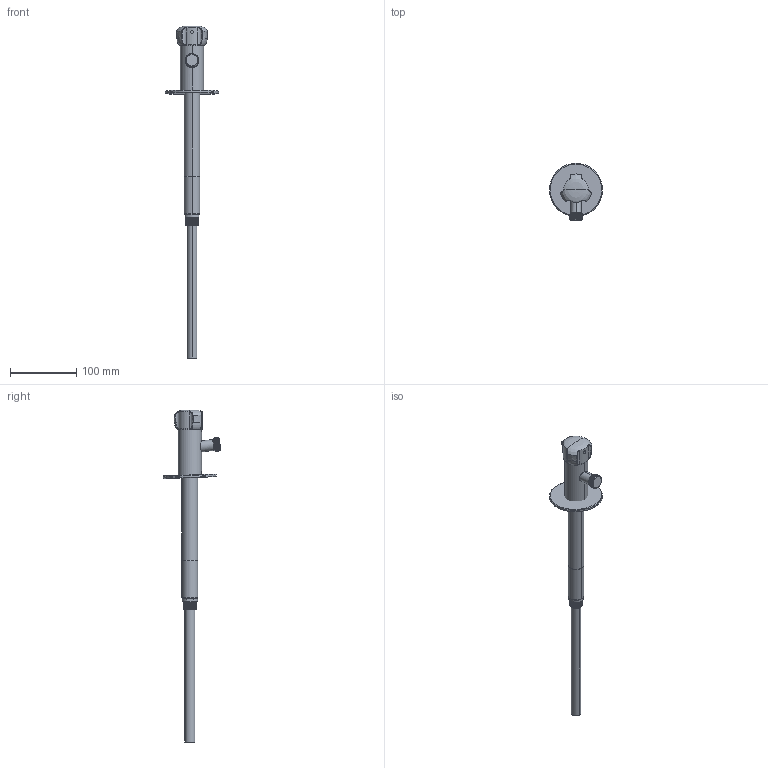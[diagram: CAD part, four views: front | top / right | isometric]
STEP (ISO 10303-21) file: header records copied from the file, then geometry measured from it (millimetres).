
FILE_DESCRIPTION((''),'2;1');
FILE_NAME('89980--25_SW0001','2026-09-09T14:31:21',('clra1'),(''),'CREO PARAMETRIC BY PTC INC, 2022244','CREO PARAMETRIC BY PTC INC, 2022244','');
FILE_SCHEMA(('CONFIG_CONTROL_DESIGN'));
Length unit declared in the file: millimetre
Products named in the file (1): 89980--25_SW0001
Bounding box: 80 x 86.46 x 501.1 mm (x, y, z)
Surface area: 53343.6 mm2 (no closed solid volume)
Topology: 0 solids, 15 shells, 147 faces, 358 edges, 223 vertices
Faces by surface type: bspline 47, cylinder 44, cone 30, plane 12, torus 9, revolution 5
Entity records: 10927 total; most frequent: CARTESIAN_POINT 7870, ORIENTED_EDGE 674, DIRECTION 528, EDGE_CURVE 356, AXIS2_PLACEMENT_3D 224, VERTEX_POINT 223, B_SPLINE_CURVE_WITH_KNOTS 157, EDGE_LOOP 147
